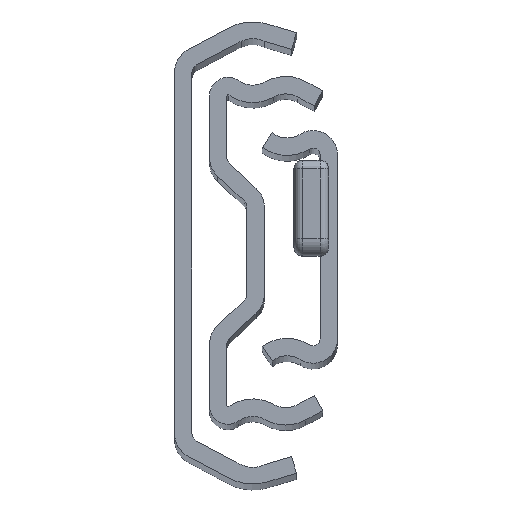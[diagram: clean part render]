
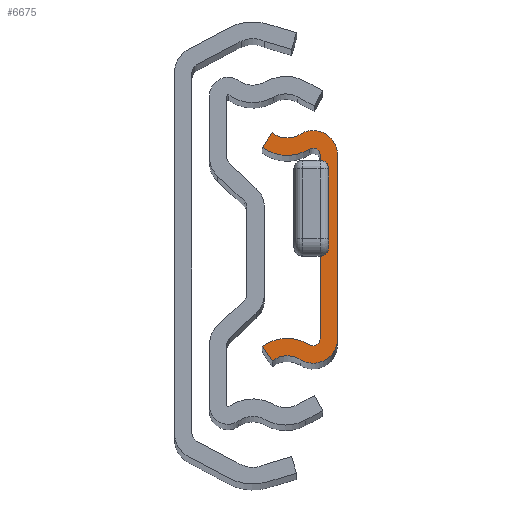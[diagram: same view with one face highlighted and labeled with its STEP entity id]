
A CAD part, top view. The second image highlights one B-rep face of the part: STEP entity #6675.
In plain terms, the highlighted planar face has unit normal (0, 0, 1).
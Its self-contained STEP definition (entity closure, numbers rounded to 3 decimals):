
#150 = EDGE_CURVE ( 'NONE', #3779, #28552, #22336, .T. ) ;
#581 = CARTESIAN_POINT ( 'NONE',  ( 0.018, 12.922, 0. ) ) ;
#865 = EDGE_CURVE ( 'NONE', #28399, #22883, #7105, .T. ) ;
#870 = VERTEX_POINT ( 'NONE', #1176 ) ;
#872 = DIRECTION ( 'NONE',  ( 0., 0., 1. ) ) ;
#960 = VERTEX_POINT ( 'NONE', #15944 ) ;
#1176 = CARTESIAN_POINT ( 'NONE',  ( -3.194, 13.089, 0. ) ) ;
#1181 = CIRCLE ( 'NONE', #7291, 0.8 ) ;
#2100 = DIRECTION ( 'NONE',  ( -0.555, -0.832, 0. ) ) ;
#2444 = CARTESIAN_POINT ( 'NONE',  ( 4.306, -10.55, 0. ) ) ;
#2559 = EDGE_CURVE ( 'NONE', #27386, #18119, #2575, .T. ) ;
#2571 = DIRECTION ( 'NONE',  ( 1., 0., 0. ) ) ;
#2575 = LINE ( 'NONE', #29340, #15153 ) ;
#2936 = AXIS2_PLACEMENT_3D ( 'NONE', #6373, #29923, #24881 ) ;
#3132 = ORIENTED_EDGE ( 'NONE', *, *, #3435, .T. ) ;
#3408 = CARTESIAN_POINT ( 'NONE',  ( 1.506, 10.55, 0. ) ) ;
#3435 = EDGE_CURVE ( 'NONE', #22476, #16925, #13228, .T. ) ;
#3779 = VERTEX_POINT ( 'NONE', #23687 ) ;
#3838 = CARTESIAN_POINT ( 'NONE',  ( 0.018, -12.922, 0. ) ) ;
#3843 = CARTESIAN_POINT ( 'NONE',  ( 1.081, 11.228, 0. ) ) ;
#3977 = EDGE_LOOP ( 'NONE', ( #17107, #3132, #15247, #8416, #14985, #26134, #4618, #28786, #17393, #8167, #28451, #23546 ) ) ;
#4147 = FACE_OUTER_BOUND ( 'NONE', #3977, .T. ) ;
#4618 = ORIENTED_EDGE ( 'NONE', *, *, #150, .T. ) ;
#5111 = AXIS2_PLACEMENT_3D ( 'NONE', #16732, #26302, #2571 ) ;
#6136 = DIRECTION ( 'NONE',  ( 0., 0., 1. ) ) ;
#6249 = VERTEX_POINT ( 'NONE', #8345 ) ;
#6373 = CARTESIAN_POINT ( 'NONE',  ( -1.47, 15.294, 0. ) ) ;
#6607 = DIRECTION ( 'NONE',  ( 0., 1., 0. ) ) ;
#6675 = ADVANCED_FACE ( 'Face2', ( #4147 ), #24236, .T. ) ;
#6844 = CARTESIAN_POINT ( 'NONE',  ( -4.306, -11.422, 0. ) ) ;
#7105 = LINE ( 'NONE', #29331, #18965 ) ;
#7291 = AXIS2_PLACEMENT_3D ( 'NONE', #3408, #21976, #29172 ) ;
#7664 = AXIS2_PLACEMENT_3D ( 'NONE', #26210, #19629, #7833 ) ;
#7833 = DIRECTION ( 'NONE',  ( 1., 0., 0. ) ) ;
#8004 = EDGE_CURVE ( 'NONE', #18119, #22476, #22583, .T. ) ;
#8065 = AXIS2_PLACEMENT_3D ( 'NONE', #12820, #15202, #12412 ) ;
#8167 = ORIENTED_EDGE ( 'NONE', *, *, #24761, .T. ) ;
#8345 = CARTESIAN_POINT ( 'NONE',  ( 1.081, -11.228, 0. ) ) ;
#8416 = ORIENTED_EDGE ( 'NONE', *, *, #29118, .T. ) ;
#8667 = CARTESIAN_POINT ( 'NONE',  ( 4.306, -10.55, 0. ) ) ;
#10276 = CARTESIAN_POINT ( 'NONE',  ( -1.47, -15.294, 0. ) ) ;
#12412 = DIRECTION ( 'NONE',  ( 1., 0., 0. ) ) ;
#12820 = CARTESIAN_POINT ( 'NONE',  ( -1.47, -15.294, 0. ) ) ;
#12982 = CARTESIAN_POINT ( 'NONE',  ( 1.506, 10.55, 0. ) ) ;
#13228 = CIRCLE ( 'NONE', #5111, 2.8 ) ;
#14731 = EDGE_CURVE ( 'NONE', #870, #3779, #26779, .T. ) ;
#14985 = ORIENTED_EDGE ( 'NONE', *, *, #25482, .T. ) ;
#15153 = VECTOR ( 'NONE', #24728, 1000. ) ;
#15202 = DIRECTION ( 'NONE',  ( 0., 0., -1. ) ) ;
#15229 = DIRECTION ( 'NONE',  ( 0., -1., 0. ) ) ;
#15247 = ORIENTED_EDGE ( 'NONE', *, *, #15335, .T. ) ;
#15335 = EDGE_CURVE ( 'NONE', #16925, #960, #19765, .T. ) ;
#15384 = AXIS2_PLACEMENT_3D ( 'NONE', #18158, #6136, #22689 ) ;
#15944 = CARTESIAN_POINT ( 'NONE',  ( 4.306, 10.55, 0. ) ) ;
#15996 = CARTESIAN_POINT ( 'NONE',  ( -1.47, -15.294, 0. ) ) ;
#16283 = AXIS2_PLACEMENT_3D ( 'NONE', #12982, #17728, #27401 ) ;
#16355 = CARTESIAN_POINT ( 'NONE',  ( -4.306, 11.422, 0. ) ) ;
#16542 = EDGE_CURVE ( 'NONE', #28552, #28399, #1181, .T. ) ;
#16732 = CARTESIAN_POINT ( 'NONE',  ( 1.506, -10.55, 0. ) ) ;
#16925 = VERTEX_POINT ( 'NONE', #2444 ) ;
#17043 = CARTESIAN_POINT ( 'NONE',  ( 2.306, 10.55, 0. ) ) ;
#17107 = ORIENTED_EDGE ( 'NONE', *, *, #8004, .T. ) ;
#17200 = DIRECTION ( 'NONE',  ( 1., 0., 0. ) ) ;
#17393 = ORIENTED_EDGE ( 'NONE', *, *, #865, .T. ) ;
#17728 = DIRECTION ( 'NONE',  ( 0., 0., 1. ) ) ;
#18119 = VERTEX_POINT ( 'NONE', #27875 ) ;
#18158 = CARTESIAN_POINT ( 'NONE',  ( -1.47, 15.294, 0. ) ) ;
#18638 = EDGE_CURVE ( 'NONE', #6249, #27386, #24703, .T. ) ;
#18965 = VECTOR ( 'NONE', #15229, 1000. ) ;
#19387 = CARTESIAN_POINT ( 'NONE',  ( 2.306, -10.55, 0. ) ) ;
#19629 = DIRECTION ( 'NONE',  ( 0., 0., -1. ) ) ;
#19765 = LINE ( 'NONE', #8667, #29334 ) ;
#21064 = CIRCLE ( 'NONE', #2936, 2.8 ) ;
#21613 = AXIS2_PLACEMENT_3D ( 'NONE', #15996, #25177, #22716 ) ;
#21976 = DIRECTION ( 'NONE',  ( 0., 0., -1. ) ) ;
#22336 = CIRCLE ( 'NONE', #15384, 4.8 ) ;
#22476 = VERTEX_POINT ( 'NONE', #3838 ) ;
#22583 = CIRCLE ( 'NONE', #8065, 2.8 ) ;
#22689 = DIRECTION ( 'NONE',  ( -1., 0., 0. ) ) ;
#22716 = DIRECTION ( 'NONE',  ( 1., 0., 0. ) ) ;
#22883 = VERTEX_POINT ( 'NONE', #19387 ) ;
#23295 = AXIS2_PLACEMENT_3D ( 'NONE', #10276, #872, #17200 ) ;
#23546 = ORIENTED_EDGE ( 'NONE', *, *, #2559, .T. ) ;
#23687 = CARTESIAN_POINT ( 'NONE',  ( -4.306, 11.422, 0. ) ) ;
#23828 = CIRCLE ( 'NONE', #16283, 2.8 ) ;
#24236 = PLANE ( 'NONE',  #23295 ) ;
#24703 = CIRCLE ( 'NONE', #21613, 4.8 ) ;
#24728 = DIRECTION ( 'NONE',  ( 0.555, -0.832, 0. ) ) ;
#24761 = EDGE_CURVE ( 'NONE', #22883, #6249, #26226, .T. ) ;
#24881 = DIRECTION ( 'NONE',  ( -1., 0., 0. ) ) ;
#25177 = DIRECTION ( 'NONE',  ( 0., 0., 1. ) ) ;
#25482 = EDGE_CURVE ( 'NONE', #27942, #870, #21064, .T. ) ;
#26047 = VECTOR ( 'NONE', #2100, 1000. ) ;
#26134 = ORIENTED_EDGE ( 'NONE', *, *, #14731, .T. ) ;
#26210 = CARTESIAN_POINT ( 'NONE',  ( 1.506, -10.55, 0. ) ) ;
#26226 = CIRCLE ( 'NONE', #7664, 0.8 ) ;
#26302 = DIRECTION ( 'NONE',  ( 0., 0., 1. ) ) ;
#26779 = LINE ( 'NONE', #16355, #26047 ) ;
#27386 = VERTEX_POINT ( 'NONE', #6844 ) ;
#27401 = DIRECTION ( 'NONE',  ( -1., 0., 0. ) ) ;
#27875 = CARTESIAN_POINT ( 'NONE',  ( -3.194, -13.089, 0. ) ) ;
#27942 = VERTEX_POINT ( 'NONE', #581 ) ;
#28399 = VERTEX_POINT ( 'NONE', #17043 ) ;
#28451 = ORIENTED_EDGE ( 'NONE', *, *, #18638, .T. ) ;
#28552 = VERTEX_POINT ( 'NONE', #3843 ) ;
#28786 = ORIENTED_EDGE ( 'NONE', *, *, #16542, .T. ) ;
#29118 = EDGE_CURVE ( 'NONE', #960, #27942, #23828, .T. ) ;
#29172 = DIRECTION ( 'NONE',  ( -1., 0., 0. ) ) ;
#29331 = CARTESIAN_POINT ( 'NONE',  ( 2.306, -10.55, 0. ) ) ;
#29334 = VECTOR ( 'NONE', #6607, 1000. ) ;
#29340 = CARTESIAN_POINT ( 'NONE',  ( -4.306, -11.422, 0. ) ) ;
#29923 = DIRECTION ( 'NONE',  ( 0., 0., -1. ) ) ;
